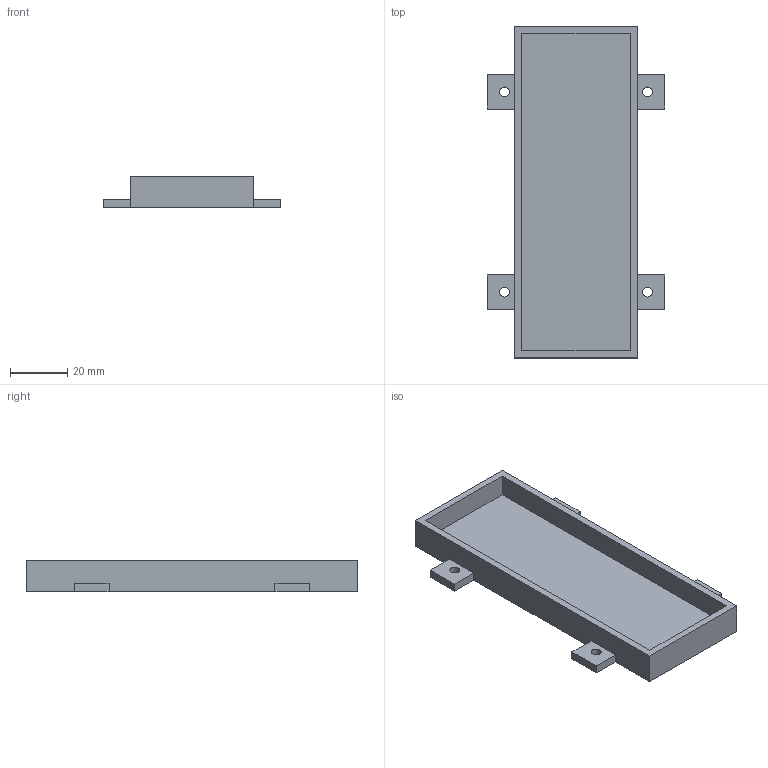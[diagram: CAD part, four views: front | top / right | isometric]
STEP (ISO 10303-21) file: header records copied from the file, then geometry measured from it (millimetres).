
FILE_DESCRIPTION(('FreeCAD Model'),'2;1');
FILE_NAME('Open CASCADE Shape Model','2026-10-12T22:45:25',('FreeCAD'),( 'FreeCAD'),'Open CASCADE STEP processor 7.8','FreeCAD','Unknown');
FILE_SCHEMA(('AUTOMOTIVE_DESIGN { 1 0 10303 214 1 1 1 1 }'));
Length unit declared in the file: millimetre
Products named in the file (1): Open CASCADE STEP translator 7.8 13
Bounding box: 62 x 116 x 11 mm (x, y, z)
Volume: 22383 mm3; surface area: 17053.5 mm2
Topology: 1 solids, 1 shells, 31 faces, 84 edges, 56 vertices
Faces by surface type: plane 27, cylinder 4
Full cylindrical faces by diameter (mm): 3.4 x4
Entity records: 992 total; most frequent: CARTESIAN_POINT 172, ORIENTED_EDGE 168, DIRECTION 156, EDGE_CURVE 84, LINE 76, VECTOR 76, VERTEX_POINT 56, AXIS2_PLACEMENT_3D 40
